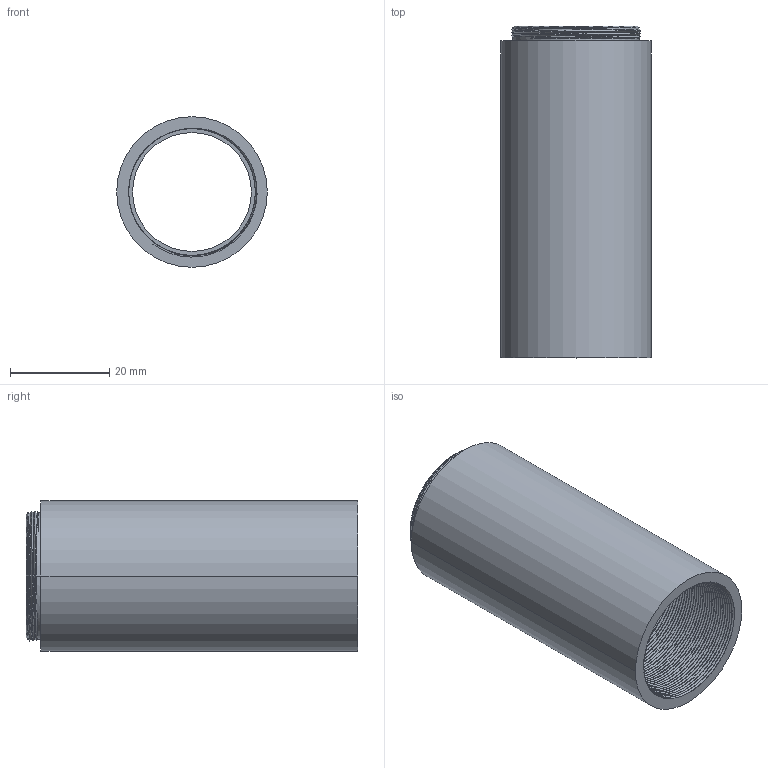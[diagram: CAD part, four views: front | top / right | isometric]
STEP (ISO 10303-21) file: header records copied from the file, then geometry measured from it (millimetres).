
FILE_DESCRIPTION((''),'2;1');
FILE_NAME('CSA-64','2020-10-29T',('Administrator'),(''),'CREO PARAMETRIC BY PTC INC, 2015290','CREO PARAMETRIC BY PTC INC, 2015290','');
FILE_SCHEMA(('CONFIG_CONTROL_DESIGN'));
Length unit declared in the file: millimetre
Products named in the file (1): CSA-64
Bounding box: 30.4 x 67 x 30.4 mm (x, y, z)
Volume: 12973.4 mm3; surface area: 15119.8 mm2
Topology: 1 solids, 1 shells, 275 faces, 781 edges, 511 vertices
Faces by surface type: cylinder 209, bspline 58, plane 6, cone 2
Entity records: 33761 total; most frequent: CARTESIAN_POINT 27720, ORIENTED_EDGE 1562, EDGE_CURVE 781, DIRECTION 744, VERTEX_POINT 511, B_SPLINE_CURVE_WITH_KNOTS 492, EDGE_LOOP 280, FACE_OUTER_BOUND 275
